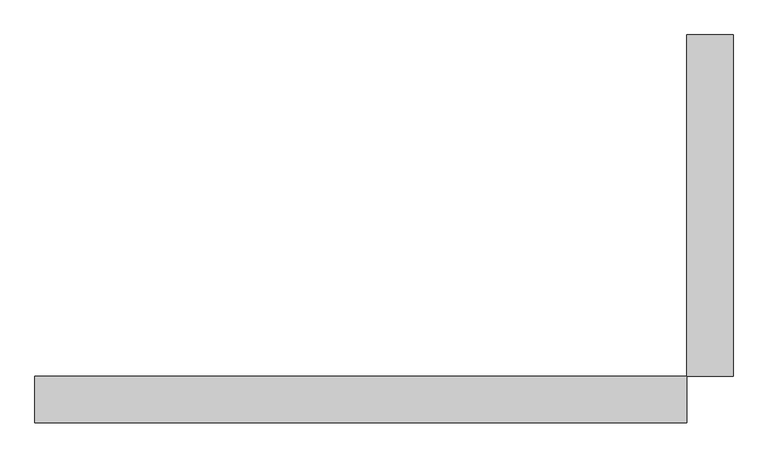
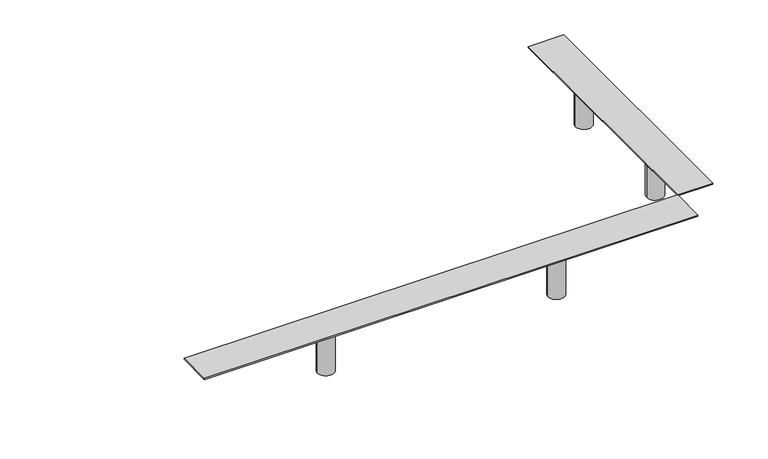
"""IFC4 building model written with IfcOpenShell, lengths in millimetres: proxy geometry, 常规模型 2 : 常规模型 2."""

from ifc_helpers import new_model, si_unit, point, frame, frame_2d, origin, origin_with_axes, place, context, project, spatial, polyline, circle_curve, trimmed, segment, composite_curve, outline, extrude, source, transform, mapped, element, save


def generic_models_58798f3e(model_context):
    return source(origin(), model_context, "Body", "SweptSolid", [
        extrude(outline(polyline([(18267.3316161, -2425.464179), (18867.3316161, -2425.464179), (18867.3316161, -6825.464179), (18267.3316161, -6825.464179), (18267.3316161, -2425.464179)])), frame((0.0, 0.0, 800.0), z_axis=(0.0, 0.0, 1.0), x_axis=(1.0, 0.0, 0.0)), (0.0, 0.0, 1.0), 20.0),
        extrude(outline(composite_curve([segment(trimmed(circle_curve(frame_2d((12104.005405, -7125.464179)), 141.4213562), [point((11962.5840487, -7125.464179))], [point((12245.4267612, -7125.464179))], False, "CARTESIAN"), True, "CONTINUOUS"), segment(trimmed(circle_curve(frame_2d((12104.005405, -7125.464179)), 141.4213562), [point((12245.4267612, -7125.464179))], [point((11962.5840487, -7125.464179))], False, "CARTESIAN"), True, "CONTINUOUS")], self_intersect=False)), origin_with_axes(), (0.0, 0.0, 1.0), 800.0),
        extrude(outline(composite_curve([segment(trimmed(circle_curve(frame_2d((16030.6578271, -7125.464179)), 141.4213562), [point((16172.0791834, -7125.464179))], [point((15889.2364709, -7125.464179))], False, "CARTESIAN"), True, "CONTINUOUS"), segment(trimmed(circle_curve(frame_2d((16030.6578271, -7125.464179)), 141.4213562), [point((15889.2364709, -7125.464179))], [point((16172.0791834, -7125.464179))], False, "CARTESIAN"), True, "CONTINUOUS")], self_intersect=False)), origin_with_axes(), (0.0, 0.0, 1.0), 800.0),
        extrude(outline(composite_curve([segment(trimmed(circle_curve(frame_2d((18567.3316161, -3542.7839577)), 141.4213562), [point((18425.9102598, -3542.7839577))], [point((18708.7529723, -3542.7839577))], False, "CARTESIAN"), True, "CONTINUOUS"), segment(trimmed(circle_curve(frame_2d((18567.3316161, -3542.7839577)), 141.4213562), [point((18708.7529723, -3542.7839577))], [point((18425.9102598, -3542.7839577))], False, "CARTESIAN"), True, "CONTINUOUS")], self_intersect=False)), origin_with_axes(), (0.0, 0.0, 1.0), 800.0),
        extrude(outline(composite_curve([segment(trimmed(circle_curve(frame_2d((18567.3316161, -5642.7839577)), 141.4213562), [point((18425.9102598, -5642.7839577))], [point((18708.7529723, -5642.7839577))], False, "CARTESIAN"), True, "CONTINUOUS"), segment(trimmed(circle_curve(frame_2d((18567.3316161, -5642.7839577)), 141.4213562), [point((18708.7529723, -5642.7839577))], [point((18425.9102598, -5642.7839577))], False, "CARTESIAN"), True, "CONTINUOUS")], self_intersect=False)), origin_with_axes(), (0.0, 0.0, 1.0), 800.0),
        extrude(outline(polyline([(18267.3316161, -6825.464179), (18267.3316161, -7425.464179), (9867.3316161, -7425.464179), (9867.3316161, -6825.464179), (18267.3316161, -6825.464179)])), frame((0.0, 0.0, 800.0), z_axis=(0.0, 0.0, 1.0), x_axis=(1.0, 0.0, 0.0)), (0.0, 0.0, 1.0), 20.0),
    ])


if __name__ == "__main__":
    model = new_model("IFC4")
    model_context = context("Model", 3, world=origin())
    ifc_project = project(units=[si_unit("LENGTHUNIT", "METRE", prefix="MILLI")], contexts=[model_context])
    site = spatial("IfcSite", under=ifc_project)
    building = spatial("IfcBuilding", under=site)
    placement = place(None, origin())
    generic_models_shape = generic_models_58798f3e(model_context)
    element("IfcBuildingElementProxy", 1, Name="常规模型 2 : 常规模型 2", ObjectType="常规模型 2 : 常规模型 2", at=placement, inside=building, context=model_context, shape_type="MappedRepresentation", body=[
        mapped(generic_models_shape, transform((0.0, 0.0, 0.0), x_axis=(1.0, 0.0, 0.0), y_axis=(0.0, 1.0, 0.0), z_axis=(0.0, 0.0, 1.0))),
    ])
    save(model, "model.ifc")
